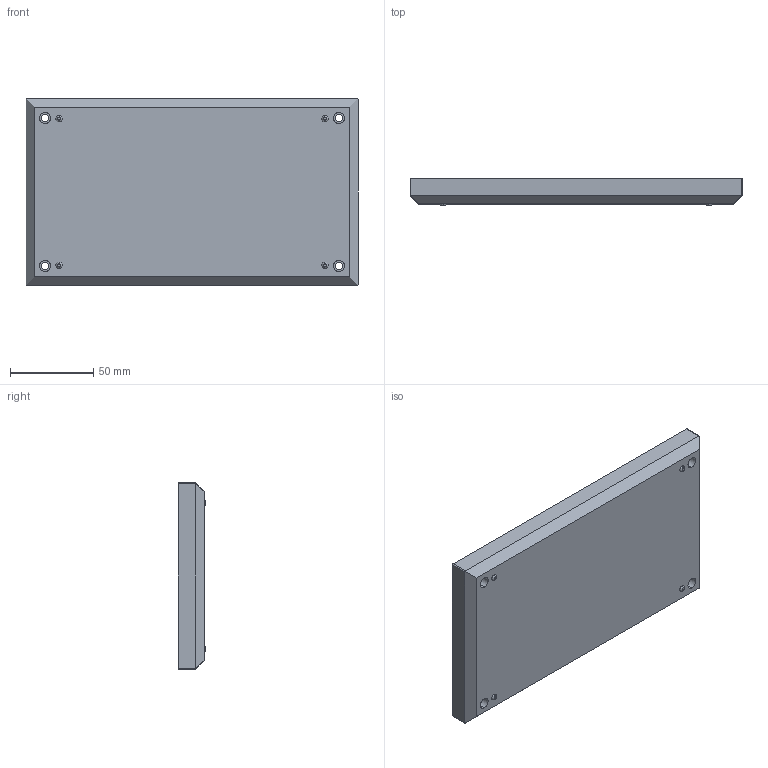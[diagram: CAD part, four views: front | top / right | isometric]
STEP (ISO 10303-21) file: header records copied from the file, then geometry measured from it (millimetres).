
FILE_DESCRIPTION (( 'STEP AP214' ), '1' );
FILE_NAME ('Cuerpo PP63A.STEP', '2017-12-14T10:42:32', ( 'aaa' ), ( '' ), 'SwSTEP 2.0', 'SolidWorks 2013', '' );
FILE_SCHEMA (( 'AUTOMOTIVE_DESIGN' ));
Length unit declared in the file: millimetre
Products named in the file (1): Cuerpo PP63A
Bounding box: 200 x 16.5 x 112.2 mm (x, y, z)
Volume: 109646.8 mm3; surface area: 65025.1 mm2
Topology: 1 solids, 1 shells, 131 faces, 284 edges, 188 vertices
Faces by surface type: cylinder 64, plane 59, torus 8
Entity records: 3684 total; most frequent: DIRECTION 688, CARTESIAN_POINT 628, ORIENTED_EDGE 568, EDGE_CURVE 284, AXIS2_PLACEMENT_3D 280, VERTEX_POINT 188, EDGE_LOOP 172, CIRCLE 148
